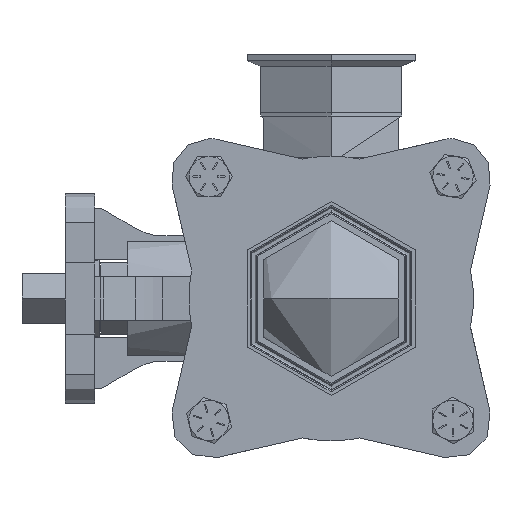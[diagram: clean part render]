
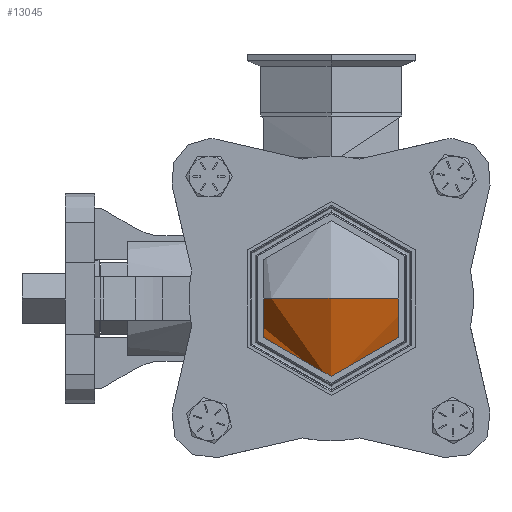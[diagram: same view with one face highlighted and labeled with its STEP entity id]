
A CAD part, left-side view. The second image highlights one B-rep face of the part: STEP entity #13045.
In plain terms, the highlighted spherical face has radius 55.88 mm.
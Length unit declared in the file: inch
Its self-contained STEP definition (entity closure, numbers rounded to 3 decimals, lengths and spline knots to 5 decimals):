
#779 = CIRCLE ( 'NONE', #20228, 2.2 ) ;
#3163 = ORIENTED_EDGE ( 'NONE', *, *, #23239, .T. ) ;
#3455 = CARTESIAN_POINT ( 'NONE',  ( 1.62471, 0., 0. ) ) ;
#3823 = EDGE_CURVE ( 'NONE', #7582, #10982, #779, .T. ) ;
#4173 = CARTESIAN_POINT ( 'NONE',  ( 0., 0., 0. ) ) ;
#5462 = DIRECTION ( 'NONE',  ( 0., 0., 1. ) ) ;
#5984 = CARTESIAN_POINT ( 'NONE',  ( 0., 0., 0. ) ) ;
#6151 = DIRECTION ( 'NONE',  ( 1., 0., 0. ) ) ;
#6468 = AXIS2_PLACEMENT_3D ( 'NONE', #22171, #10324, #24153 ) ;
#6997 = EDGE_CURVE ( 'NONE', #7668, #10982, #24854, .T. ) ;
#7009 = AXIS2_PLACEMENT_3D ( 'NONE', #5984, #23684, #19780 ) ;
#7582 = VERTEX_POINT ( 'NONE', #12636 ) ;
#7668 = VERTEX_POINT ( 'NONE', #18780 ) ;
#8055 = ORIENTED_EDGE ( 'NONE', *, *, #6997, .T. ) ;
#9770 = EDGE_CURVE ( 'NONE', #16137, #7668, #16108, .T. ) ;
#10324 = DIRECTION ( 'NONE',  ( -1., 0., 0. ) ) ;
#10907 = CARTESIAN_POINT ( 'NONE',  ( 0., 0., 0. ) ) ;
#10982 = VERTEX_POINT ( 'NONE', #19365 ) ;
#12410 = CIRCLE ( 'NONE', #13814, 1.48335 ) ;
#12636 = CARTESIAN_POINT ( 'NONE',  ( 1.62471, 1.48335, 0. ) ) ;
#12877 = DIRECTION ( 'NONE',  ( 0., 1., 0. ) ) ;
#13045 = ADVANCED_FACE ( 'NONE', ( #15562 ), #25472, .T. ) ;
#13814 = AXIS2_PLACEMENT_3D ( 'NONE', #3455, #17262, #5462 ) ;
#14885 = CARTESIAN_POINT ( 'NONE',  ( 1.62471, 0., -1.48335 ) ) ;
#15556 = ORIENTED_EDGE ( 'NONE', *, *, #3823, .F. ) ;
#15562 = FACE_OUTER_BOUND ( 'NONE', #24236, .T. ) ;
#16108 = CIRCLE ( 'NONE', #6468, 1.48335 ) ;
#16137 = VERTEX_POINT ( 'NONE', #14885 ) ;
#17262 = DIRECTION ( 'NONE',  ( -1., 0., 0. ) ) ;
#17968 = DIRECTION ( 'NONE',  ( 0., 0., 1. ) ) ;
#18780 = CARTESIAN_POINT ( 'NONE',  ( 1.62471, -1.48335, 0. ) ) ;
#19365 = CARTESIAN_POINT ( 'NONE',  ( -2.2, 0., 0. ) ) ;
#19780 = DIRECTION ( 'NONE',  ( 0., 1., 0. ) ) ;
#20228 = AXIS2_PLACEMENT_3D ( 'NONE', #4173, #17968, #6151 ) ;
#22171 = CARTESIAN_POINT ( 'NONE',  ( 1.62471, 0., 0. ) ) ;
#22270 = ORIENTED_EDGE ( 'NONE', *, *, #9770, .T. ) ;
#23239 = EDGE_CURVE ( 'NONE', #7582, #16137, #12410, .T. ) ;
#23684 = DIRECTION ( 'NONE',  ( 0., 0., -1. ) ) ;
#24153 = DIRECTION ( 'NONE',  ( 0., 0., 1. ) ) ;
#24236 = EDGE_LOOP ( 'NONE', ( #3163, #22270, #8055, #15556 ) ) ;
#24728 = DIRECTION ( 'NONE',  ( 0., 0., -1. ) ) ;
#24854 = CIRCLE ( 'NONE', #24966, 2.2 ) ;
#24966 = AXIS2_PLACEMENT_3D ( 'NONE', #10907, #24728, #12877 ) ;
#25472 = SPHERICAL_SURFACE ( 'NONE', #7009, 2.2 ) ;
